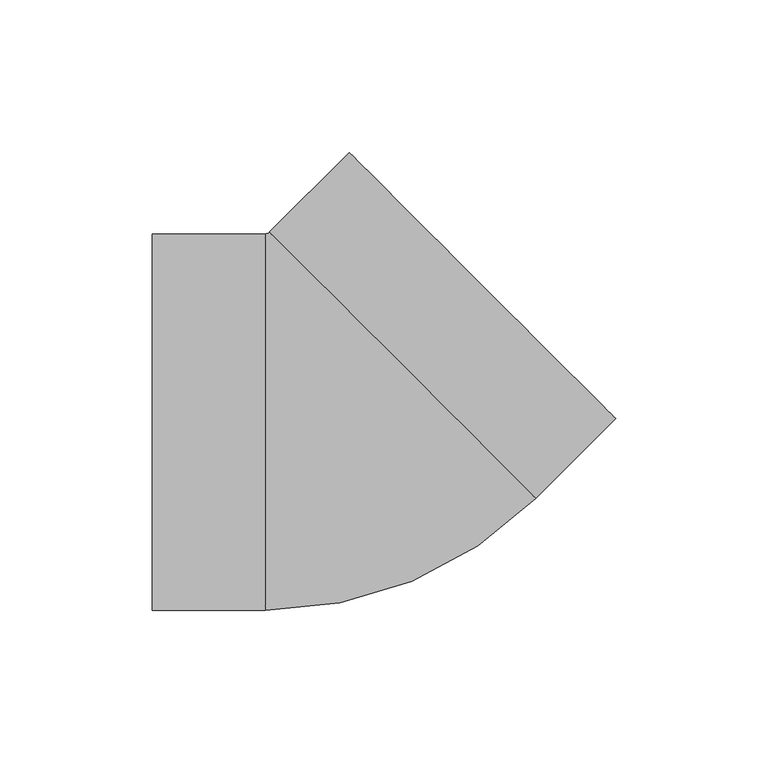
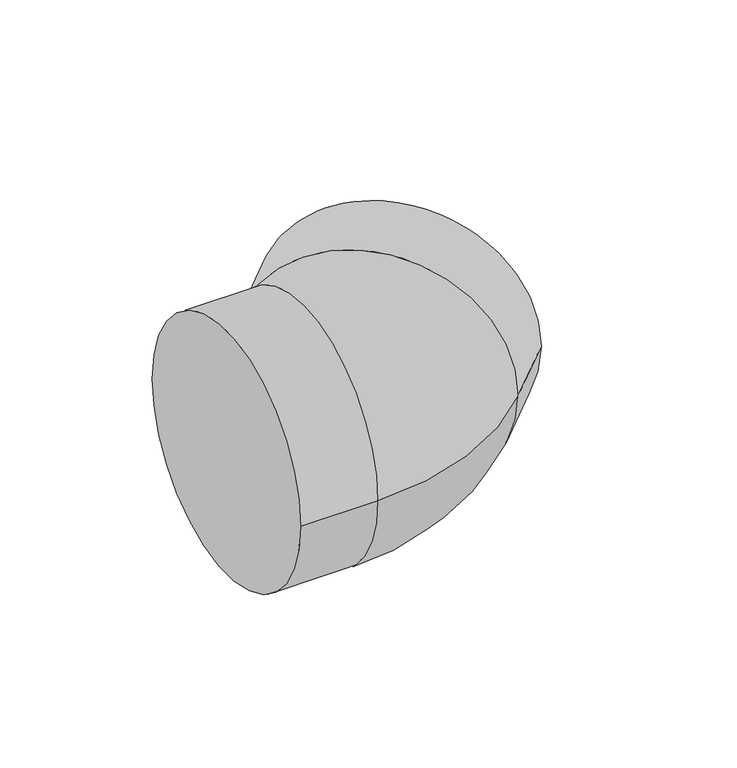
"""IFC4 building model written with IfcOpenShell, lengths in millimetres: pipe fitting geometry, NIRON RED termofusion codo : Estándar."""

from ifc_helpers import new_model, si_unit, point, frame, origin, place, context, project, spatial, circle_curve, ellipse_curve, trimmed, source, transform, mapped, element, save
from ifc_brep_helpers import plane_surface, cylinder_surface, revolved_surface, advanced_brep


def pipe_fitting_fb5e39af(model_context):
    return source(origin(), model_context, "Body", "AdvancedBrep", [
        advanced_brep(
        [(-63.3714375, -61.75, 0.0), (-63.3714375, 61.75, 0.0), (-26.3714375, -61.75, 0.0), (-26.3714375, 61.75, 0.0), (-25.0164215, 62.311266, 0.0), (62.311266, -25.0164215, 0.0), (18.6474223, 18.6474223, 61.75), (18.6474223, 18.6474223, -61.75), (88.4742169, 1.1465294, 0.0), (1.1465294, 88.4742169, 0.0)],
        [
            (0, 1, circle_curve(frame((-63.3714375, 0.0, 0.0), z_axis=(-1.0, 0.0, 0.0), x_axis=(0.0, 1.0, 0.0)), 61.75)),
            (1, 0, circle_curve(frame((-63.3714375, 0.0, 0.0), z_axis=(-1.0, 0.0, 0.0), x_axis=(0.0, 1.0, 0.0)), 61.75)),
            (0, 2),
            (2, 3, circle_curve(frame((-26.3714375, 0.0, 0.0), z_axis=(-1.0, 0.0, 0.0), x_axis=(0.0, 1.0, 0.0)), 61.75)),
            (3, 1),
            (3, 2, circle_curve(frame((-26.3714375, 0.0, 0.0), z_axis=(-1.0, 0.0, 0.0), x_axis=(0.0, 1.0, 0.0)), 61.75)),
            (4, 3, circle_curve(frame((-26.3714375, 63.666282, 0.0), z_axis=(0.0, 0.0, -1.0), x_axis=(0.0, -1.0, 0.0)), 1.916282)),
            (2, 5, circle_curve(frame((-26.3714375, 63.666282, 0.0), z_axis=(0.0, 0.0, 1.0), x_axis=(0.0, -1.0, 0.0)), 125.416282)),
            (5, 6, circle_curve(frame((18.6474223, 18.6474223, 0.0), z_axis=(-0.7071067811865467, -0.7071067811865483, 0.0), x_axis=(-0.7071067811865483, 0.7071067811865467, 0.0)), 61.75)),
            (6, 4, circle_curve(frame((18.6474223, 18.6474223, 0.0), z_axis=(-0.7071067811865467, -0.7071067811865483, 0.0), x_axis=(-0.7071067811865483, 0.7071067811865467, 0.0)), 61.75)),
            (4, 7, circle_curve(frame((18.6474223, 18.6474223, 0.0), z_axis=(-0.7071067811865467, -0.7071067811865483, 0.0), x_axis=(-0.7071067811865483, 0.7071067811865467, 0.0)), 61.75)),
            (7, 5, circle_curve(frame((18.6474223, 18.6474223, 0.0), z_axis=(-0.7071067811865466, -0.7071067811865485, 0.0), x_axis=(-0.7071067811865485, 0.7071067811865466, 0.0)), 61.75)),
            (8, 9, circle_curve(frame((44.8103732, 44.8103732, 0.0), z_axis=(0.7071067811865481, 0.7071067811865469, 0.0), x_axis=(-0.7071067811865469, 0.7071067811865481, 0.0)), 61.75)),
            (9, 8, circle_curve(frame((44.8103732, 44.8103732, 0.0), z_axis=(0.7071067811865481, 0.7071067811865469, 0.0), x_axis=(-0.7071067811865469, 0.7071067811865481, 0.0)), 61.75)),
            (9, 4),
            (5, 8),
        ],
        [
            plane_surface(frame((-63.3714375, 0.0, 0.0), z_axis=(-1.0, 0.0, 0.0), x_axis=(0.0, 0.0, 1.0))),
            cylinder_surface(frame((-63.3714375, 0.0, 0.0), z_axis=(-1.0, 0.0, 0.0), x_axis=(0.0, 1.0, 0.0)), 61.75),
            revolved_surface(trimmed(ellipse_curve(frame((-26.3714375, 0.0, 0.0), z_axis=(-1.0, 0.0, 0.0), x_axis=(0.0, 1.0, 0.0)), 61.75, 61.75), [point((-26.3714375, -61.75, 0.0))], [point((-26.3714375, 61.75, 0.0))], True, "CARTESIAN"), (-26.3714375, 63.666282, 0.0), (0.0, 0.0, 1.0)),
            revolved_surface(trimmed(ellipse_curve(frame((-26.3714375, 0.0, 0.0), z_axis=(-1.0, 0.0, 0.0), x_axis=(0.0, 1.0, 0.0)), 61.75, 61.75), [point((-26.3714375, 61.75, 0.0))], [point((-26.3714375, -61.75, 0.0))], True, "CARTESIAN"), (-26.3714375, 63.666282, 0.0), (0.0, 0.0, 1.0)),
            plane_surface(frame((44.8103732, 44.8103732, 0.0), z_axis=(0.7071067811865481, 0.7071067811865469, 0.0), x_axis=(0.0, 0.0, 1.0))),
            cylinder_surface(frame((18.6474223, 18.6474223, 0.0), z_axis=(-0.7071067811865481, -0.7071067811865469, 0.0), x_axis=(-0.7071067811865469, 0.7071067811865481, 0.0)), 61.75),
        ],
        [
            (0, [[1, 2]]),
            (1, [[-1, 3, 4, 5]]),
            (1, [[-2, -5, 6, -3]]),
            (2, [[7, -4, 8, 9, 10]]),
            (3, [[-7, 11, 12, -8, -6]]),
            (4, [[13, 14]]),
            (5, [[-14, 15, -10, -9, 16]]),
            (5, [[-13, -16, -12, -11, -15]]),
        ],
    ),
    ])


if __name__ == "__main__":
    model = new_model("IFC4")
    model_context = context("Model", 3, world=origin())
    ifc_project = project(units=[si_unit("LENGTHUNIT", "METRE", prefix="MILLI")], contexts=[model_context])
    site = spatial("IfcSite", under=ifc_project)
    building = spatial("IfcBuilding", under=site)
    placement = place(None, origin())
    pipe_fitting_shape = pipe_fitting_fb5e39af(model_context)
    element("IfcPipeFitting", 1, ObjectType="NIRON RED termofusion codo : Estándar", at=placement, inside=building, context=model_context, shape_type="MappedRepresentation", body=[
        mapped(pipe_fitting_shape, transform((0.0, 0.0, 0.0), x_axis=(1.0, 0.0, 0.0), y_axis=(0.0, 1.0, 0.0), z_axis=(0.0, 0.0, 1.0))),
    ])
    save(model, "model.ifc")
